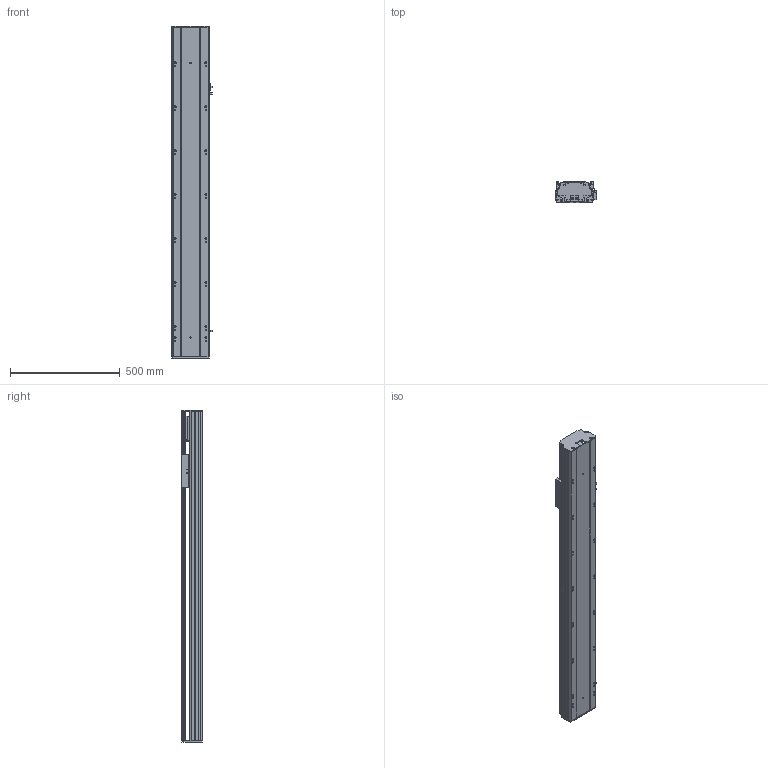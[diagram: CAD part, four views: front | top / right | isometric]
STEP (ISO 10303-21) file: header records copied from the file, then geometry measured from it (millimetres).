
FILE_DESCRIPTION (( 'STEP AP203' ), '1' );
FILE_NAME ('Y170-D10-S1100-M-P400W.STEP', '2020-01-22T13:02:42', ( '微软用户' ), ( '微软中国' ), 'SwSTEP 2.0', 'SolidWorks 2017', '' );
FILE_SCHEMA (( 'CONFIG_CONTROL_DESIGN' ));
Length unit declared in the file: millimetre
Products named in the file (10): Y170--雄赽釱-梓--; 170--掛极-M; Y170耜裔--準---M; san松下电机400不带刹车----; Y170-陔遴奻裔-M; YD-Y100-135-新外置传感挡片(通用）; Y170-D10-S1100-M-P400W; Y100-135俋离換覜ん; 135-盓傅釱-FK15; Y170耜裔--準---
Assembly tree (11 placements, depth 2):
  Y170-D10-S1100-M-P400W
    YD-Y100-135-新外置传感挡片(通用）
    Y100-135俋离換覜ん  x3
    135-盓傅釱-FK15
    Y170耜裔--準---
    Y170--雄赽釱-梓--
    170--掛极-M
    Y170耜裔--準---M
    san松下电机400不带刹车----
    Y170-陔遴奻裔-M
Bounding box: 183.5 x 97 x 1511 mm (x, y, z)
Volume: 6410875.6 mm3; surface area: 2284554.2 mm2
Topology: 11 solids, 11 shells, 809 faces, 2324 edges, 1540 vertices
Faces by surface type: cylinder 423, plane 384, torus 2
Entity records: 26540 total; most frequent: CARTESIAN_POINT 4833, DIRECTION 4382, ORIENTED_EDGE 4312, EDGE_CURVE 2156, AXIS2_PLACEMENT_3D 1561, VERTEX_POINT 1428, LINE 1260, VECTOR 1260
